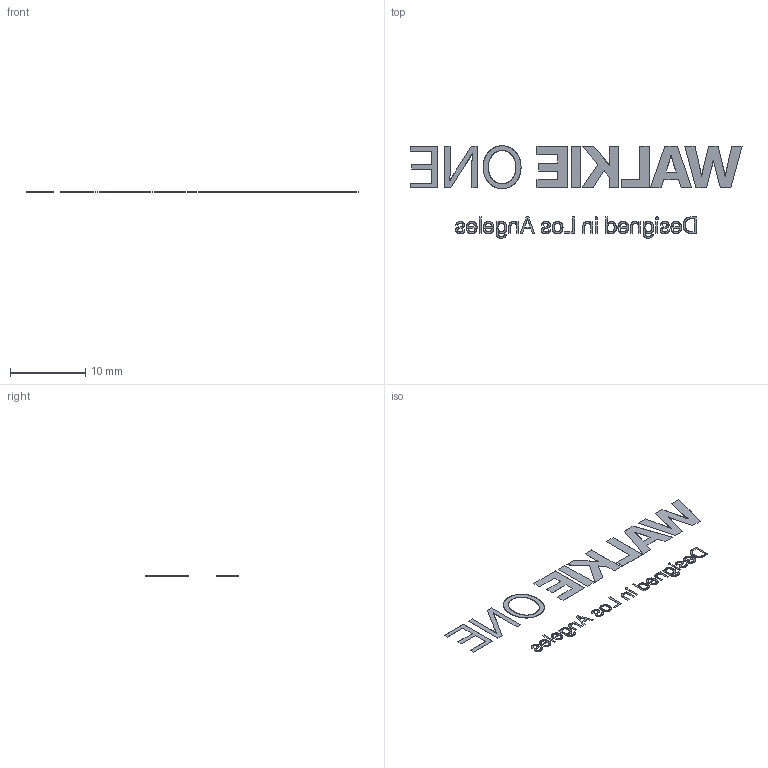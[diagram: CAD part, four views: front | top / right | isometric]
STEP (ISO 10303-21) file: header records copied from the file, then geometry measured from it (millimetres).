
FILE_DESCRIPTION(('Open CASCADE Model'),'2;1');
FILE_NAME('Open CASCADE Shape Model','2026-09-04T20:36:22',('Author'),( 'Open CASCADE'),'Open CASCADE STEP processor 7.7','Open CASCADE 7.7' ,'Unknown');
FILE_SCHEMA(('AUTOMOTIVE_DESIGN { 1 0 10303 214 1 1 1 1 }'));
Length unit declared in the file: millimetre
Products named in the file (32): Open CASCADE STEP translator 7.7 2; Open CASCADE STEP translator 7.7 2.1; Open CASCADE STEP translator 7.7 2.2; Open CASCADE STEP translator 7.7 2.3; Open CASCADE STEP translator 7.7 2.4; Open CASCADE STEP translator 7.7 2.5; Open CASCADE STEP translator 7.7 2.6; Open CASCADE STEP translator 7.7 2.7; Open CASCADE STEP translator 7.7 2.8; Open CASCADE STEP translator 7.7 2.9; Open CASCADE STEP translator 7.7 2.10; Open CASCADE STEP translator 7.7 2.11; Open CASCADE STEP translator 7.7 2.12; Open CASCADE STEP translator 7.7 2.13; Open CASCADE STEP translator 7.7 2.14; Open CASCADE STEP translator 7.7 2.15; Open CASCADE STEP translator 7.7 2.16; Open CASCADE STEP translator 7.7 2.17; Open CASCADE STEP translator 7.7 2.18; Open CASCADE STEP translator 7.7 2.19; Open CASCADE STEP translator 7.7 2.20; Open CASCADE STEP translator 7.7 2.21; Open CASCADE STEP translator 7.7 2.22; Open CASCADE STEP translator 7.7 2.23; Open CASCADE STEP translator 7.7 2.24; Open CASCADE STEP translator 7.7 2.25; Open CASCADE STEP translator 7.7 2.26; Open CASCADE STEP translator 7.7 2.27; Open CASCADE STEP translator 7.7 2.28; Open CASCADE STEP translator 7.7 2.29; Open CASCADE STEP translator 7.7 2.30; Open CASCADE STEP translator 7.7 2.31
Assembly tree (31 placements, depth 2):
  Open CASCADE STEP translator 7.7 2
    Open CASCADE STEP translator 7.7 2.1
    Open CASCADE STEP translator 7.7 2.2
    Open CASCADE STEP translator 7.7 2.3
    Open CASCADE STEP translator 7.7 2.4
    Open CASCADE STEP translator 7.7 2.5
    Open CASCADE STEP translator 7.7 2.6
    Open CASCADE STEP translator 7.7 2.7
    Open CASCADE STEP translator 7.7 2.8
    Open CASCADE STEP translator 7.7 2.9
    Open CASCADE STEP translator 7.7 2.10
    Open CASCADE STEP translator 7.7 2.11
    Open CASCADE STEP translator 7.7 2.12
    Open CASCADE STEP translator 7.7 2.13
    Open CASCADE STEP translator 7.7 2.14
    Open CASCADE STEP translator 7.7 2.15
    Open CASCADE STEP translator 7.7 2.16
    Open CASCADE STEP translator 7.7 2.17
    Open CASCADE STEP translator 7.7 2.18
    Open CASCADE STEP translator 7.7 2.19
    Open CASCADE STEP translator 7.7 2.20
    Open CASCADE STEP translator 7.7 2.21
    Open CASCADE STEP translator 7.7 2.22
    Open CASCADE STEP translator 7.7 2.23
    Open CASCADE STEP translator 7.7 2.24
    Open CASCADE STEP translator 7.7 2.25
    Open CASCADE STEP translator 7.7 2.26
    Open CASCADE STEP translator 7.7 2.27
    Open CASCADE STEP translator 7.7 2.28
    Open CASCADE STEP translator 7.7 2.29
    Open CASCADE STEP translator 7.7 2.30
    Open CASCADE STEP translator 7.7 2.31
Bounding box: 44 x 12.25 x 0.01 mm (x, y, z)
Volume: 1.4 mm3; surface area: 279.9 mm2
Topology: 31 solids, 31 shells, 10107 faces, 30135 edges, 20090 vertices
Faces by surface type: plane 10107
Entity records: 724420 total; most frequent: CARTESIAN_POINT 120634, DIRECTION 110683, LINE 90405, VECTOR 90405, ORIENTED_EDGE 60270, PCURVE 60270, DEFINITIONAL_REPRESENTATION 60270, EDGE_CURVE 30135
